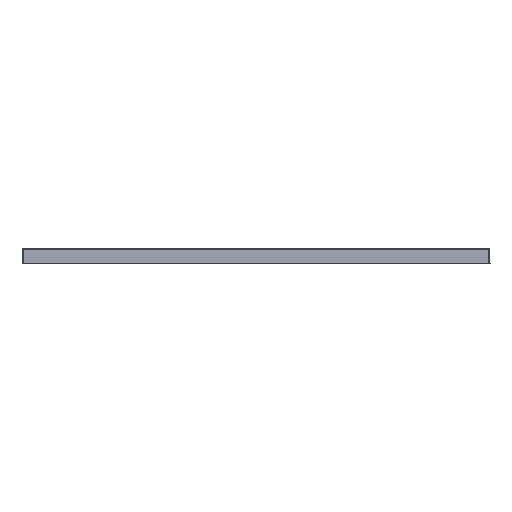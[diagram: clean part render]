
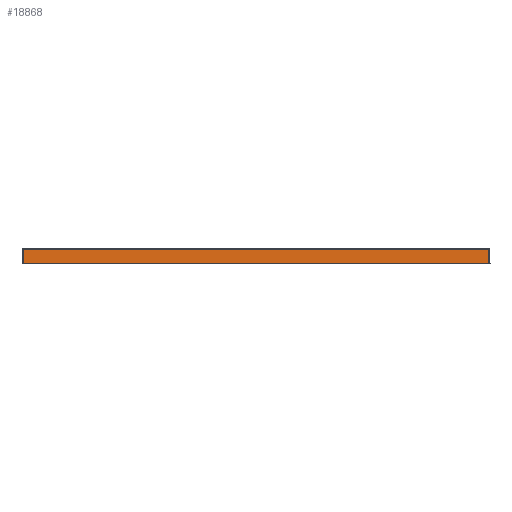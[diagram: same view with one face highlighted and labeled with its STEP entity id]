
A CAD part, front view. The second image highlights one B-rep face of the part: STEP entity #18868.
In plain terms, the highlighted planar face has unit normal (0, -1, 0.018).
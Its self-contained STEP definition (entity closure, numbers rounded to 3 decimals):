
#274 = CARTESIAN_POINT ( 'NONE',  ( 448.786, -1317.432, -30. ) ) ;
#527 = DIRECTION ( 'NONE',  ( -0.026, -0.017, -1. ) ) ;
#717 = EDGE_CURVE ( 'NONE', #10576, #4079, #17528, .T. ) ;
#949 = EDGE_CURVE ( 'NONE', #1714, #16063, #8606, .T. ) ;
#1059 = CARTESIAN_POINT ( 'NONE',  ( -49.262, -1316.967, -3.321 ) ) ;
#1553 = ORIENTED_EDGE ( 'NONE', *, *, #717, .T. ) ;
#1714 = VERTEX_POINT ( 'NONE', #18246 ) ;
#1827 = VECTOR ( 'NONE', #3837, 1000. ) ;
#1903 = CARTESIAN_POINT ( 'NONE',  ( 448.786, -1317.432, -30. ) ) ;
#2142 = CARTESIAN_POINT ( 'NONE',  ( 170.463, -1316.971, -3.558 ) ) ;
#2244 = CARTESIAN_POINT ( 'NONE',  ( -323.211, -1316.98, -4.112 ) ) ;
#3748 = CARTESIAN_POINT ( 'NONE',  ( -188.374, -1316.972, -3.615 ) ) ;
#3837 = DIRECTION ( 'NONE',  ( -0.026, 0.017, 1. ) ) ;
#3847 = CARTESIAN_POINT ( 'NONE',  ( -373.45, -1316.979, -4.009 ) ) ;
#3946 = CARTESIAN_POINT ( 'NONE',  ( -252.521, -1316.976, -3.85 ) ) ;
#4079 = VERTEX_POINT ( 'NONE', #7560 ) ;
#5253 = CARTESIAN_POINT ( 'NONE',  ( 341.908, -1316.981, -4.135 ) ) ;
#5380 = FACE_OUTER_BOUND ( 'NONE', #18818, .T. ) ;
#5454 = CARTESIAN_POINT ( 'NONE',  ( -136.189, -1316.969, -3.469 ) ) ;
#5643 = CARTESIAN_POINT ( 'NONE',  ( -343.678, -1316.981, -4.139 ) ) ;
#5933 = CARTESIAN_POINT ( 'NONE',  ( -448.786, -1317.432, -30. ) ) ;
#6346 = DIRECTION ( 'NONE',  ( -1., 0., 0. ) ) ;
#6826 = ORIENTED_EDGE ( 'NONE', *, *, #12641, .F. ) ;
#6842 = CARTESIAN_POINT ( 'NONE',  ( -359.804, -1316.98, -4.102 ) ) ;
#6944 = CARTESIAN_POINT ( 'NONE',  ( 420.749, -1316.964, -3.16 ) ) ;
#7131 = CARTESIAN_POINT ( 'NONE',  ( 438.337, -1316.952, -2.485 ) ) ;
#7560 = CARTESIAN_POINT ( 'NONE',  ( 448.054, -1316.944, -2.054 ) ) ;
#8248 = CARTESIAN_POINT ( 'NONE',  ( -303.367, -1316.979, -4.053 ) ) ;
#8347 = CARTESIAN_POINT ( 'NONE',  ( -402.776, -1316.971, -3.601 ) ) ;
#8606 = LINE ( 'NONE', #19206, #10464 ) ;
#8627 = CARTESIAN_POINT ( 'NONE',  ( 448.786, -1317.432, -30. ) ) ;
#8668 = CARTESIAN_POINT ( 'NONE',  ( 0., -1316.507, 22.98 ) ) ;
#8714 = ORIENTED_EDGE ( 'NONE', *, *, #949, .T. ) ;
#9789 = DIRECTION ( 'NONE',  ( 0., 1., -0.017 ) ) ;
#9953 = CARTESIAN_POINT ( 'NONE',  ( -432.148, -1316.956, -2.726 ) ) ;
#10014 = B_SPLINE_CURVE_WITH_KNOTS ( 'NONE', 3,
 ( #14444, #7131, #6944, #19330, #10055, #5253, #13049, #11455, #17539, #19141, #2142, #17639, #11355, #1059, #5454, #3748, #14748, #3946, #12946, #8248, #2244, #5643, #6842, #3847, #10152, #8347, #19039, #9953, #17336, #16132 ),
 .UNSPECIFIED., .F., .F.,
 ( 4, 1, 1, 1, 1, 1, 1, 1, 1, 1, 1, 1, 1, 1, 1, 1, 1, 1, 1, 1, 1, 1, 1, 1, 1, 1, 1, 4 ),
 ( 1.998, 31.179, 54.798, 87.647, 112.281, 124.597, 145.122, 169.763, 231.363, 271.406, 336.092, 382.297, 516.288, 599.453, 643.078, 672.842, 702.605, 732.368, 754.692, 773.296, 791.901, 816.09, 821.674, 832.842, 859.069, 866.679, 881.9, 898.169 ),
 .UNSPECIFIED. ) ;
#10055 = CARTESIAN_POINT ( 'NONE',  ( 365.174, -1316.98, -4.103 ) ) ;
#10152 = CARTESIAN_POINT ( 'NONE',  ( -387.776, -1316.976, -3.869 ) ) ;
#10464 = VECTOR ( 'NONE', #527, 1000. ) ;
#10576 = VERTEX_POINT ( 'NONE', #1903 ) ;
#11172 = EDGE_CURVE ( 'NONE', #4079, #1714, #10014, .T. ) ;
#11355 = CARTESIAN_POINT ( 'NONE',  ( 38.525, -1316.967, -3.322 ) ) ;
#11455 = CARTESIAN_POINT ( 'NONE',  ( 303.588, -1316.979, -4.054 ) ) ;
#12641 = EDGE_CURVE ( 'NONE', #10576, #16063, #14050, .T. ) ;
#12946 = CARTESIAN_POINT ( 'NONE',  ( -279.804, -1316.978, -3.961 ) ) ;
#12979 = DIRECTION ( 'NONE',  ( -1., 0., 0. ) ) ;
#13049 = CARTESIAN_POINT ( 'NONE',  ( 322.749, -1316.98, -4.111 ) ) ;
#13124 = ORIENTED_EDGE ( 'NONE', *, *, #11172, .T. ) ;
#14050 = LINE ( 'NONE', #274, #17914 ) ;
#14444 = CARTESIAN_POINT ( 'NONE',  ( 448.054, -1316.944, -2.054 ) ) ;
#14748 = CARTESIAN_POINT ( 'NONE',  ( -222.757, -1316.974, -3.733 ) ) ;
#16063 = VERTEX_POINT ( 'NONE', #5933 ) ;
#16132 = CARTESIAN_POINT ( 'NONE',  ( -448.054, -1316.944, -2.054 ) ) ;
#16250 = PLANE ( 'NONE',  #18995 ) ;
#17336 = CARTESIAN_POINT ( 'NONE',  ( -442.636, -1316.949, -2.294 ) ) ;
#17528 = LINE ( 'NONE', #8627, #1827 ) ;
#17539 = CARTESIAN_POINT ( 'NONE',  ( 268., -1316.977, -3.915 ) ) ;
#17639 = CARTESIAN_POINT ( 'NONE',  ( 120.152, -1316.969, -3.439 ) ) ;
#17914 = VECTOR ( 'NONE', #6346, 1000. ) ;
#18246 = CARTESIAN_POINT ( 'NONE',  ( -448.054, -1316.944, -2.054 ) ) ;
#18818 = EDGE_LOOP ( 'NONE', ( #1553, #13124, #8714, #6826 ) ) ;
#18868 = ADVANCED_FACE ( 'NONE', ( #5380 ), #16250, .F. ) ;
#18995 = AXIS2_PLACEMENT_3D ( 'NONE', #8668, #9789, #12979 ) ;
#19039 = CARTESIAN_POINT ( 'NONE',  ( -419.122, -1316.964, -3.158 ) ) ;
#19141 = CARTESIAN_POINT ( 'NONE',  ( 225.906, -1316.974, -3.739 ) ) ;
#19206 = CARTESIAN_POINT ( 'NONE',  ( -448.054, -1316.944, -2.054 ) ) ;
#19330 = CARTESIAN_POINT ( 'NONE',  ( 392.207, -1316.976, -3.842 ) ) ;
